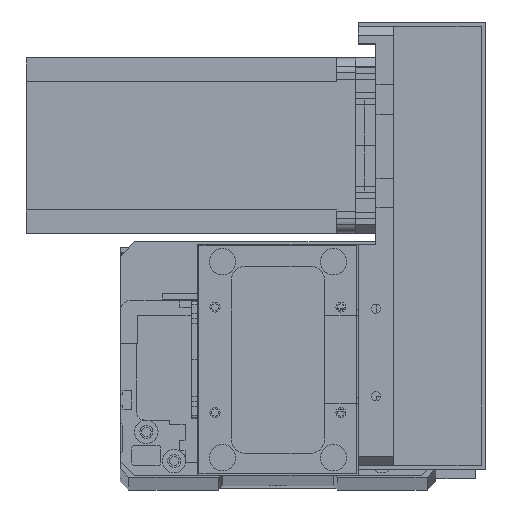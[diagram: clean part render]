
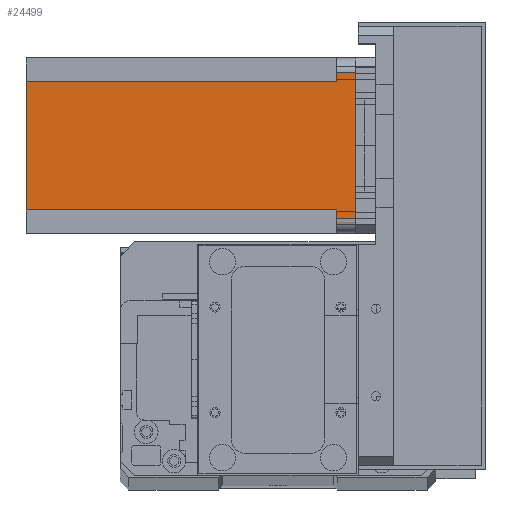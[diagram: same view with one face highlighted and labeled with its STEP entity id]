
A CAD part, top view. The second image highlights one B-rep face of the part: STEP entity #24499.
In plain terms, the highlighted planar face has unit normal (0, 0, 1) as drawn and (0, 1, 0) by its records, which use the part's own axes.
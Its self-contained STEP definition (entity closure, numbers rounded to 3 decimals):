
#67 = CARTESIAN_POINT ( 'NONE',  ( 5., 60., 0. ) ) ;
#934 = PLANE ( 'NONE',  #5484 ) ;
#951 = CARTESIAN_POINT ( 'NONE',  ( 55., 60., 0. ) ) ;
#1005 = VECTOR ( 'NONE', #31852, 1000. ) ;
#1645 = DIRECTION ( 'NONE',  ( -1., 0., 0. ) ) ;
#2385 = DIRECTION ( 'NONE',  ( -1., 0., 0. ) ) ;
#2462 = VECTOR ( 'NONE', #17912, 1000. ) ;
#3603 = ORIENTED_EDGE ( 'NONE', *, *, #21549, .F. ) ;
#4527 = VECTOR ( 'NONE', #14315, 1000. ) ;
#4698 = EDGE_LOOP ( 'NONE', ( #8245, #17454, #3603, #14445, #8473, #20025, #6323, #32962 ) ) ;
#5484 = AXIS2_PLACEMENT_3D ( 'NONE', #21882, #6202, #24509 ) ;
#5757 = EDGE_CURVE ( 'NONE', #20396, #17729, #25419, .T. ) ;
#6202 = DIRECTION ( 'NONE',  ( 0., 1., 0. ) ) ;
#6323 = ORIENTED_EDGE ( 'NONE', *, *, #6813, .T. ) ;
#6813 = EDGE_CURVE ( 'NONE', #15547, #20396, #22081, .T. ) ;
#6982 = VECTOR ( 'NONE', #1645, 1000. ) ;
#7742 = CARTESIAN_POINT ( 'NONE',  ( 8., 60., -112.5 ) ) ;
#8187 = DIRECTION ( 'NONE',  ( 0., 0., -1. ) ) ;
#8196 = VERTEX_POINT ( 'NONE', #12703 ) ;
#8245 = ORIENTED_EDGE ( 'NONE', *, *, #24798, .F. ) ;
#8473 = ORIENTED_EDGE ( 'NONE', *, *, #15957, .T. ) ;
#8792 = VECTOR ( 'NONE', #2385, 1000. ) ;
#9436 = CARTESIAN_POINT ( 'NONE',  ( 55., 60., -6.5 ) ) ;
#10270 = CARTESIAN_POINT ( 'NONE',  ( 52., 60., -112.5 ) ) ;
#10557 = CARTESIAN_POINT ( 'NONE',  ( 8., 60., -6.5 ) ) ;
#11498 = VERTEX_POINT ( 'NONE', #951 ) ;
#12703 = CARTESIAN_POINT ( 'NONE',  ( 52., 60., -112.5 ) ) ;
#12838 = VECTOR ( 'NONE', #26109, 1000. ) ;
#12933 = CARTESIAN_POINT ( 'NONE',  ( 5., 60., -6.5 ) ) ;
#13133 = EDGE_CURVE ( 'NONE', #15547, #22670, #26794, .T. ) ;
#13342 = FACE_OUTER_BOUND ( 'NONE', #4698, .T. ) ;
#13522 = CARTESIAN_POINT ( 'NONE',  ( 55., 60., -112.5 ) ) ;
#14315 = DIRECTION ( 'NONE',  ( 0., 0., 1. ) ) ;
#14445 = ORIENTED_EDGE ( 'NONE', *, *, #18769, .F. ) ;
#15547 = VERTEX_POINT ( 'NONE', #15654 ) ;
#15654 = CARTESIAN_POINT ( 'NONE',  ( 8., 60., -6.5 ) ) ;
#15957 = EDGE_CURVE ( 'NONE', #8196, #22670, #20903, .T. ) ;
#16982 = CARTESIAN_POINT ( 'NONE',  ( 52., 60., -6.5 ) ) ;
#17454 = ORIENTED_EDGE ( 'NONE', *, *, #27912, .T. ) ;
#17729 = VERTEX_POINT ( 'NONE', #67 ) ;
#17912 = DIRECTION ( 'NONE',  ( 1., 0., 0. ) ) ;
#18769 = EDGE_CURVE ( 'NONE', #8196, #31629, #26795, .T. ) ;
#20025 = ORIENTED_EDGE ( 'NONE', *, *, #13133, .F. ) ;
#20396 = VERTEX_POINT ( 'NONE', #12933 ) ;
#20716 = CARTESIAN_POINT ( 'NONE',  ( 0., 60., 0. ) ) ;
#20903 = LINE ( 'NONE', #25221, #6982 ) ;
#21077 = LINE ( 'NONE', #13522, #1005 ) ;
#21549 = EDGE_CURVE ( 'NONE', #31629, #25236, #24184, .T. ) ;
#21882 = CARTESIAN_POINT ( 'NONE',  ( 0., 60., -112.5 ) ) ;
#22081 = LINE ( 'NONE', #10557, #29053 ) ;
#22670 = VERTEX_POINT ( 'NONE', #7742 ) ;
#22742 = LINE ( 'NONE', #20716, #8792 ) ;
#24184 = LINE ( 'NONE', #33614, #2462 ) ;
#24499 = ADVANCED_FACE ( 'NONE', ( #13342 ), #934, .T. ) ;
#24509 = DIRECTION ( 'NONE',  ( 0., 0., 1. ) ) ;
#24798 = EDGE_CURVE ( 'NONE', #11498, #17729, #22742, .T. ) ;
#25221 = CARTESIAN_POINT ( 'NONE',  ( 0., 60., -112.5 ) ) ;
#25236 = VERTEX_POINT ( 'NONE', #9436 ) ;
#25419 = LINE ( 'NONE', #32545, #4527 ) ;
#26109 = DIRECTION ( 'NONE',  ( 0., 0., 1. ) ) ;
#26794 = LINE ( 'NONE', #31806, #32951 ) ;
#26795 = LINE ( 'NONE', #10270, #12838 ) ;
#27912 = EDGE_CURVE ( 'NONE', #11498, #25236, #21077, .T. ) ;
#28905 = DIRECTION ( 'NONE',  ( -1., 0., 0. ) ) ;
#29053 = VECTOR ( 'NONE', #28905, 1000. ) ;
#31629 = VERTEX_POINT ( 'NONE', #16982 ) ;
#31806 = CARTESIAN_POINT ( 'NONE',  ( 8., 60., -112.5 ) ) ;
#31852 = DIRECTION ( 'NONE',  ( 0., 0., -1. ) ) ;
#32545 = CARTESIAN_POINT ( 'NONE',  ( 5., 60., -112.5 ) ) ;
#32951 = VECTOR ( 'NONE', #8187, 1000. ) ;
#32962 = ORIENTED_EDGE ( 'NONE', *, *, #5757, .T. ) ;
#33614 = CARTESIAN_POINT ( 'NONE',  ( 52., 60., -6.5 ) ) ;
